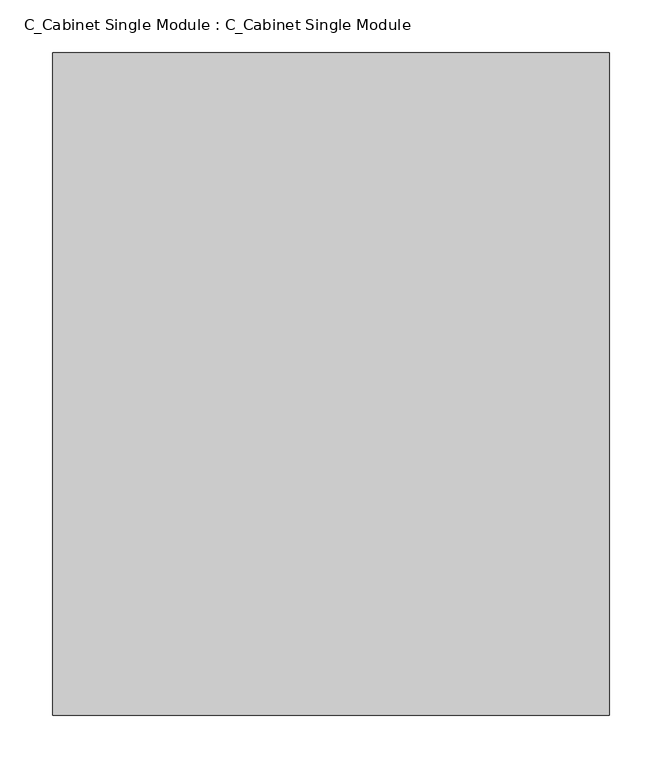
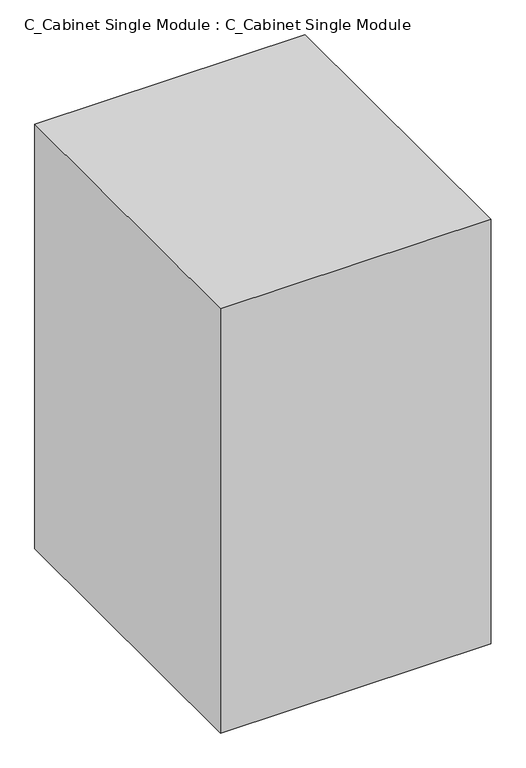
"""IFC4 building model written with IfcOpenShell, lengths in millimetres: furniture geometry, C_Cabinet Single Module : C_Cabinet Single Module."""

from ifc_helpers import new_model, si_unit, origin, origin_with_axes, place, context, project, spatial, polyline, outline, extrude, source, transform, mapped, element, save


def c_cabinet_single_module_c_cabinet_single_module_748682a7(model_context):
    return source(origin(), model_context, "Body", "SweptSolid", [
        extrude(outline(polyline([(264.31875, 0.0), (264.31875, -628.65), (-264.31875, -628.65), (-264.31875, 0.0), (264.31875, 0.0)])), origin_with_axes(), (0.0, 0.0, 1.0), 876.3),
    ])


if __name__ == "__main__":
    model = new_model("IFC4")
    model_context = context("Model", 3, world=origin())
    ifc_project = project(units=[si_unit("LENGTHUNIT", "METRE", prefix="MILLI")], contexts=[model_context])
    site = spatial("IfcSite", under=ifc_project)
    building = spatial("IfcBuilding", under=site)
    placement = place(None, origin())
    c_cabinet_single_module_c_cabinet_single_module_shape = c_cabinet_single_module_c_cabinet_single_module_748682a7(model_context)
    element("IfcFurniture", 1, ObjectType="C_Cabinet Single Module : C_Cabinet Single Module", at=placement, inside=building, context=model_context, shape_type="MappedRepresentation", body=[
        mapped(c_cabinet_single_module_c_cabinet_single_module_shape, transform((0.0, 0.0, 0.0), x_axis=(1.0, 0.0, 0.0), y_axis=(0.0, 1.0, 0.0), z_axis=(0.0, 0.0, 1.0))),
    ])
    save(model, "model.ifc")
